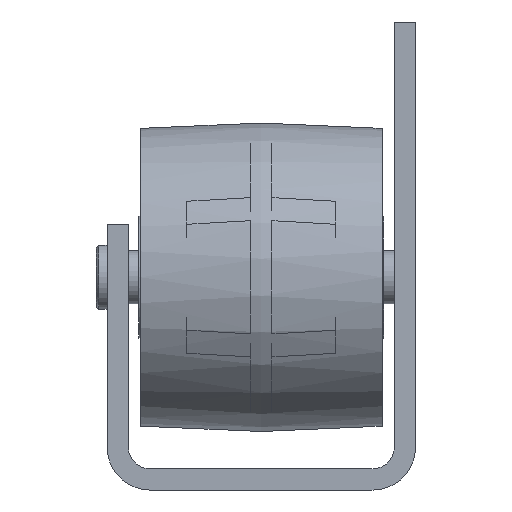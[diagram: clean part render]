
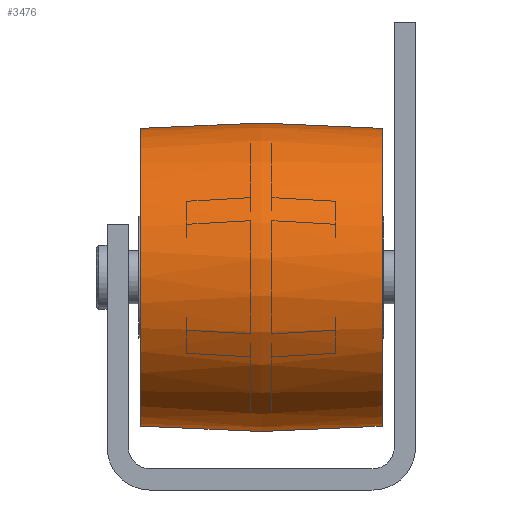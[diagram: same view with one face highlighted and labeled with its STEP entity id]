
A CAD part, front view. The second image highlights one B-rep face of the part: STEP entity #3476.
In plain terms, the highlighted toroidal (fillet/blend) face has major radius 114.573 mm and minor radius 129.072 mm.
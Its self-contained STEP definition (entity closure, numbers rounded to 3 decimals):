
#20=DEGENERATE_TOROIDAL_SURFACE('',#3934,114.572,129.072,
 .F.);
#691=CIRCLE('',#3933,14.);
#692=CIRCLE('',#3935,14.);
#1292=ORIENTED_EDGE('',*,*,#1805,.T.);
#1293=ORIENTED_EDGE('',*,*,#1804,.F.);
#1804=EDGE_CURVE('',#2147,#2147,#691,.T.);
#1805=EDGE_CURVE('',#2148,#2148,#692,.T.);
#2147=VERTEX_POINT('',#6020);
#2148=VERTEX_POINT('',#6023);
#2762=EDGE_LOOP('',(#1292));
#2763=EDGE_LOOP('',(#1293));
#3226=FACE_BOUND('',#2762,.T.);
#3227=FACE_BOUND('',#2763,.T.);
#3476=ADVANCED_FACE('',(#3226,#3227),#20,.F.);
#3933=AXIS2_PLACEMENT_3D('',#6019,#4881,#4882);
#3934=AXIS2_PLACEMENT_3D('',#6021,#4883,#4884);
#3935=AXIS2_PLACEMENT_3D('',#6022,#4885,#4886);
#4881=DIRECTION('',(-1.,0.,0.));
#4882=DIRECTION('',(0.,0.,1.));
#4883=DIRECTION('',(-1.,0.,0.));
#4884=DIRECTION('',(0.,0.,1.));
#4885=DIRECTION('',(-1.,0.,0.));
#4886=DIRECTION('',(0.,0.,1.));
#6019=CARTESIAN_POINT('',(-11.35,0.,0.));
#6020=CARTESIAN_POINT('',(-11.35,0.,14.));
#6021=CARTESIAN_POINT('',(0.,0.,0.));
#6022=CARTESIAN_POINT('',(11.35,0.,0.));
#6023=CARTESIAN_POINT('',(11.35,0.,14.));
